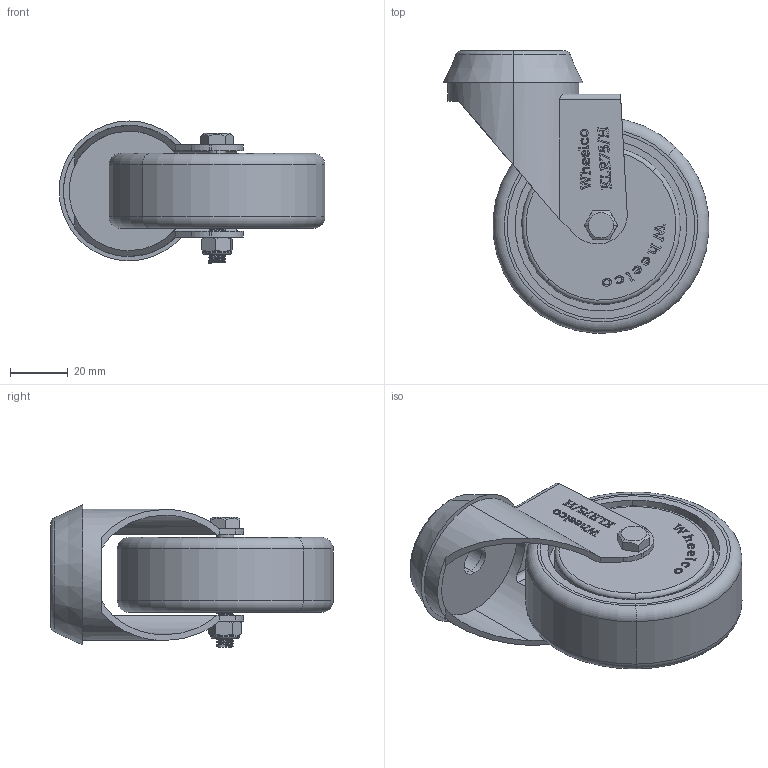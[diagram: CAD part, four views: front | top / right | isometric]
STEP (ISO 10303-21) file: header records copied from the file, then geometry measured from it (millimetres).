
FILE_DESCRIPTION (( 'STEP AP214' ), '1' );
FILE_NAME ('KLR75-H.step', '2023-12-04T19:23:01', ( '' ), ( '' ), 'SwSTEP 2.0', 'SolidWorks 2022', '' );
FILE_SCHEMA (( 'AUTOMOTIVE_DESIGN' ));
Length unit declared in the file: millimetre
Products named in the file (6): KLR75-H; KLR75 CAP; M6NYLOC-WHITE; KLR75-P; M6x45; KLR75-WHEEL
Assembly tree (5 placements, depth 2):
  KLR75-H
    KLR75-P
    KLR75 CAP
    KLR75-WHEEL
    M6x45
    M6NYLOC-WHITE
Bounding box: 92.17 x 97.92 x 49.24 mm (x, y, z)
Volume: 135209.4 mm3; surface area: 39654.3 mm2
Topology: 5 solids, 5 shells, 565 faces, 1515 edges, 998 vertices
Faces by surface type: plane 315, bspline 129, cylinder 85, cone 20, torus 16
Entity records: 27829 total; most frequent: CARTESIAN_POINT 14444, ORIENTED_EDGE 3030, DIRECTION 2157, EDGE_CURVE 1515, VERTEX_POINT 998, VECTOR 991, LINE 991, EDGE_LOOP 615
